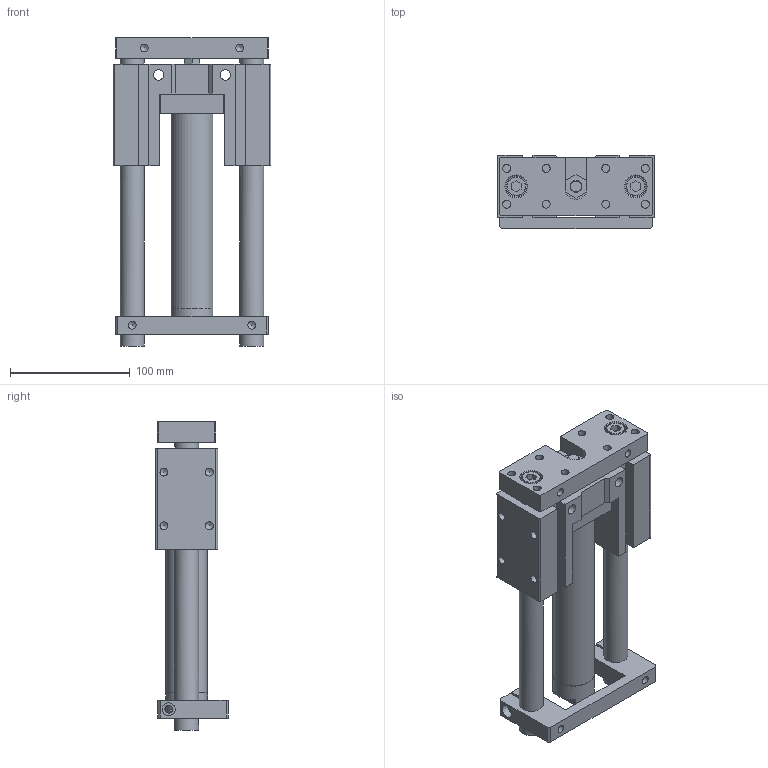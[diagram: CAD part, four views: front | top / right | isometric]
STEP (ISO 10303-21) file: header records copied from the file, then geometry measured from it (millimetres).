
FILE_DESCRIPTION((''),'2;1');
FILE_NAME('I:\3D電子目錄\氣缸\TMB(U)\TMB(U)\TMB(U)32\TMB(U)32x125.stp','2007-10-05T11:17:16',('Administrator'),(''),'Autodesk Inventor 11','Autodesk Inventor 11','');
FILE_SCHEMA(('AUTOMOTIVE_DESIGN { 1 0 10303 214 1 1 1 1 }'));
Length unit declared in the file: millimetre
Products named in the file (1): TMB(U)32
Bounding box: 132 x 61 x 258 mm (x, y, z)
Volume: 808808.9 mm3; surface area: 137088.3 mm2
Topology: 1 solids, 1 shells, 198 faces, 514 edges, 338 vertices
Faces by surface type: plane 117, bspline 41, cylinder 23, cone 15, torus 2
Full cylindrical faces by diameter (mm): 6.5 x2, 6.647 x6, 10 x1, 11 x1, 16 x2, 18 x2, 20 x2, 35 x2
Entity records: 6000 total; most frequent: CARTESIAN_POINT 1554, DIRECTION 850, ORIENTED_EDGE 842, EDGE_CURVE 421, EDGE_LOOP 320, VERTEX_POINT 313, VECTOR 300, LINE 300
